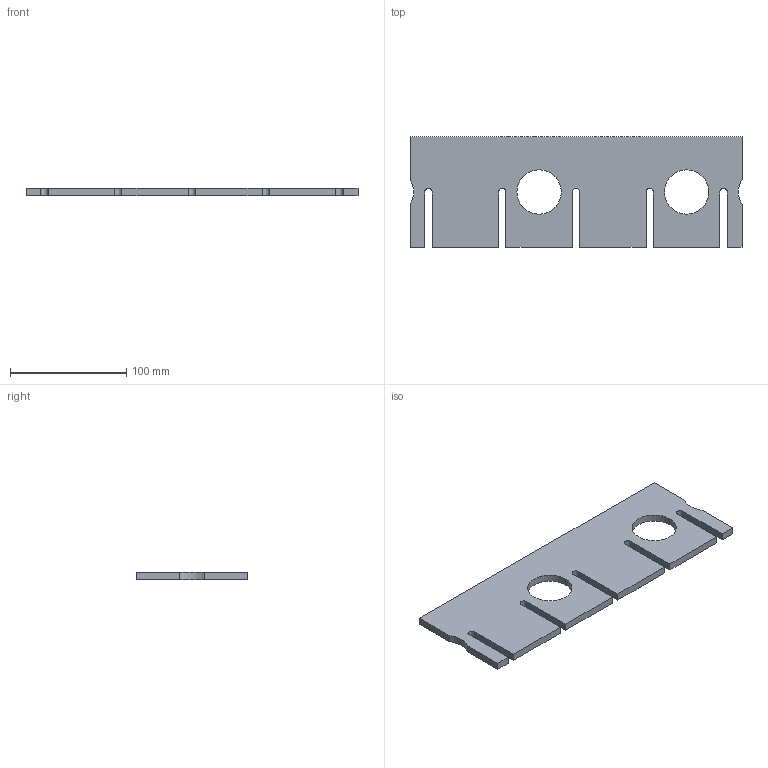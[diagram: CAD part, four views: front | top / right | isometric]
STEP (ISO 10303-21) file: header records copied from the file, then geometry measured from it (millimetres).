
FILE_DESCRIPTION((''),'2;1');
FILE_NAME('M:\jdazai\jdazai_home\private\Inventor Diagrams\maze parts\Waterjet Maze\micemaze_4-piece_holes_xoxo.stp','2014-09-25T09:12:38',('jdazai'),(''),'Autodesk Inventor 2013','Autodesk Inventor 2013','');
FILE_SCHEMA(('AUTOMOTIVE_DESIGN { 1 0 10303 214 1 1 1 1 }'));
Length unit declared in the file: millimetre
Products named in the file (1): Part9
Bounding box: 285.75 x 95.25 x 6.35 mm (x, y, z)
Volume: 147672.3 mm3; surface area: 56025 mm2
Topology: 1 solids, 1 shells, 32 faces, 90 edges, 60 vertices
Faces by surface type: plane 23, cylinder 9
Full cylindrical faces by diameter (mm): 38.1 x2
Entity records: 1056 total; most frequent: CARTESIAN_POINT 181, ORIENTED_EDGE 176, DIRECTION 172, EDGE_CURVE 88, VECTOR 70, LINE 70, VERTEX_POINT 60, AXIS2_PLACEMENT_3D 51
